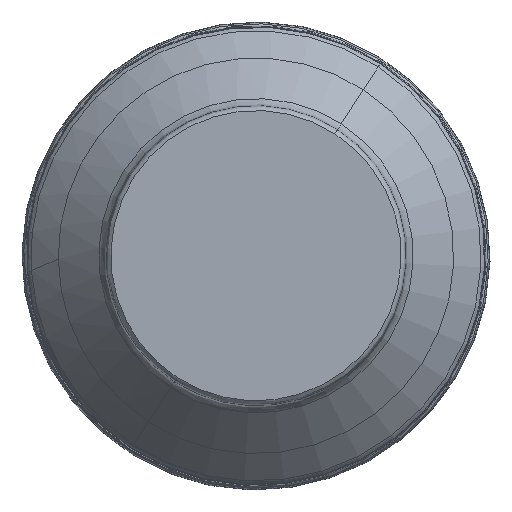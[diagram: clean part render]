
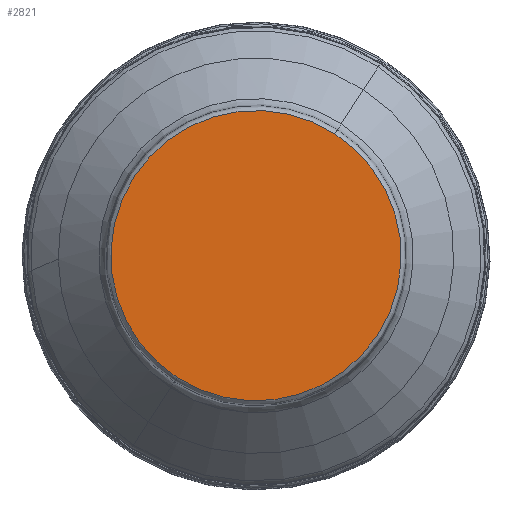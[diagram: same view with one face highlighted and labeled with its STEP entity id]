
A CAD part, top view. The second image highlights one B-rep face of the part: STEP entity #2821.
In plain terms, the highlighted planar face has unit normal (0, 0, 1).
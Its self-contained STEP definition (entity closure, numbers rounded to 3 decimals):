
#2784=AXIS2_PLACEMENT_3D('Circle Axis2P3D',#2782,#2783,$) ;
#2810=AXIS2_PLACEMENT_3D('Plane Axis2P3D',#2807,#2808,#2809) ;
#2814=AXIS2_PLACEMENT_3D('Circle Axis2P3D',#2812,#2813,$) ;
#2779=CARTESIAN_POINT('Vertex',(18.39,28.445,50.)) ;
#2782=CARTESIAN_POINT('Axis2P3D Location',(0.,0.,50.)) ;
#2786=CARTESIAN_POINT('Vertex',(-18.39,-28.445,50.)) ;
#2807=CARTESIAN_POINT('Axis2P3D Location',(-16.991,0.,50.)) ;
#2812=CARTESIAN_POINT('Axis2P3D Location',(0.,0.,50.)) ;
#2783=DIRECTION('Axis2P3D Direction',(0.,0.,1.)) ;
#2808=DIRECTION('Axis2P3D Direction',(0.,0.,-1.)) ;
#2809=DIRECTION('Axis2P3D XDirection',(-1.,0.,0.)) ;
#2813=DIRECTION('Axis2P3D Direction',(0.,0.,-1.)) ;
#2818=ORIENTED_EDGE('',*,*,#2788,.T.) ;
#2819=ORIENTED_EDGE('',*,*,#2816,.T.) ;
#2821=ADVANCED_FACE('NOCUT',(#2820),#2811,.F.) ;
#2785=CIRCLE('generated circle',#2784,33.872) ;
#2815=CIRCLE('generated circle',#2814,33.872) ;
#2788=EDGE_CURVE('',#2787,#2780,#2785,.T.) ;
#2816=EDGE_CURVE('',#2780,#2787,#2815,.F.) ;
#2817=EDGE_LOOP('',(#2818,#2819)) ;
#2820=FACE_OUTER_BOUND('',#2817,.T.) ;
#2811=PLANE('',#2810) ;
#2780=VERTEX_POINT('',#2779) ;
#2787=VERTEX_POINT('',#2786) ;
